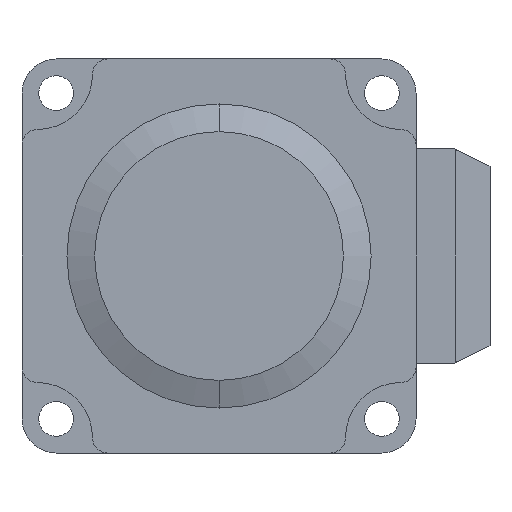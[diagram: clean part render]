
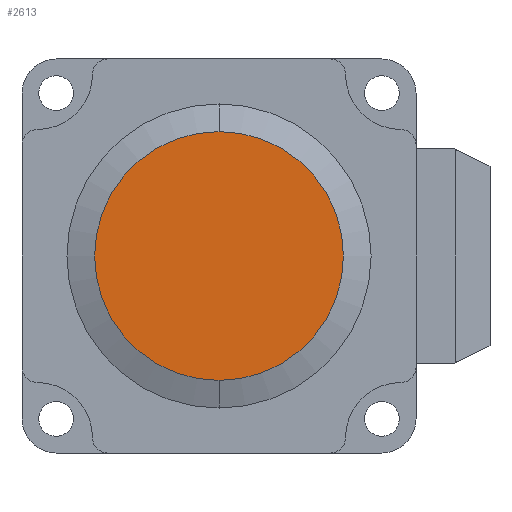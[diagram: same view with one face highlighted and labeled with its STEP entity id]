
A CAD part, front view. The second image highlights one B-rep face of the part: STEP entity #2613.
In plain terms, the highlighted planar face has unit normal (0, -1, 0).
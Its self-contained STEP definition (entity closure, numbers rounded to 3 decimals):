
#210 = ORIENTED_EDGE ( 'NONE', *, *, #1480, .F. ) ;
#326 = CIRCLE ( 'NONE', #581, 18. ) ;
#381 = AXIS2_PLACEMENT_3D ( 'NONE', #1158, #1153, #1138 ) ;
#420 = PLANE ( 'NONE',  #2068 ) ;
#581 = AXIS2_PLACEMENT_3D ( 'NONE', #1349, #2391, #1776 ) ;
#1024 = VERTEX_POINT ( 'NONE', #1101 ) ;
#1101 = CARTESIAN_POINT ( 'NONE',  ( 28.5, -123.5, -10.5 ) ) ;
#1138 = DIRECTION ( 'NONE',  ( 0., 0., 1. ) ) ;
#1153 = DIRECTION ( 'NONE',  ( 0., 1., 0. ) ) ;
#1158 = CARTESIAN_POINT ( 'NONE',  ( 28.5, -123.5, -28.5 ) ) ;
#1349 = CARTESIAN_POINT ( 'NONE',  ( 28.5, -123.5, -28.5 ) ) ;
#1480 = EDGE_CURVE ( 'NONE', #1024, #2182, #1864, .T. ) ;
#1722 = FACE_OUTER_BOUND ( 'NONE', #1848, .T. ) ;
#1776 = DIRECTION ( 'NONE',  ( 0., 0., 1. ) ) ;
#1848 = EDGE_LOOP ( 'NONE', ( #210, #2440 ) ) ;
#1864 = CIRCLE ( 'NONE', #381, 18. ) ;
#1876 = CARTESIAN_POINT ( 'NONE',  ( 28.5, -123.5, -46.5 ) ) ;
#2068 = AXIS2_PLACEMENT_3D ( 'NONE', #2363, #2355, #2389 ) ;
#2182 = VERTEX_POINT ( 'NONE', #1876 ) ;
#2355 = DIRECTION ( 'NONE',  ( 0., 1., 0. ) ) ;
#2363 = CARTESIAN_POINT ( 'NONE',  ( 28.5, -123.5, -28.5 ) ) ;
#2389 = DIRECTION ( 'NONE',  ( 0., 0., 1. ) ) ;
#2391 = DIRECTION ( 'NONE',  ( 0., 1., 0. ) ) ;
#2440 = ORIENTED_EDGE ( 'NONE', *, *, #2535, .F. ) ;
#2535 = EDGE_CURVE ( 'NONE', #2182, #1024, #326, .T. ) ;
#2613 = ADVANCED_FACE ( 'NONE', ( #1722 ), #420, .F. ) ;
